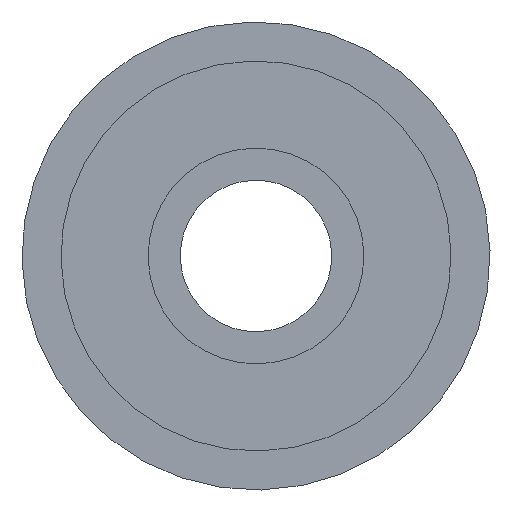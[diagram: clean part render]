
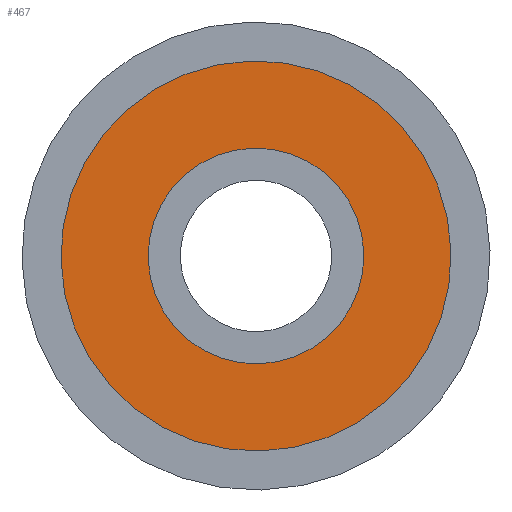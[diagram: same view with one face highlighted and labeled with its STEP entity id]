
A CAD part, left-side view. The second image highlights one B-rep face of the part: STEP entity #467.
In plain terms, the highlighted planar face has unit normal (-1, 0, 0).
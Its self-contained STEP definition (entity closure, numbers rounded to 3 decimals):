
#212=CARTESIAN_POINT('Vertex',(-24.5,-10.312,-5.633)) ;
#219=CARTESIAN_POINT('Vertex',(-24.5,10.312,5.633)) ;
#222=CARTESIAN_POINT('Axis2P3D Location',(-24.5,0.,0.)) ;
#234=CARTESIAN_POINT('Axis2P3D Location',(-24.5,0.,0.)) ;
#420=CARTESIAN_POINT('Vertex',(-24.5,18.649,10.188)) ;
#423=CARTESIAN_POINT('Axis2P3D Location',(-24.5,0.,0.)) ;
#427=CARTESIAN_POINT('Vertex',(-24.5,-18.649,-10.188)) ;
#442=CARTESIAN_POINT('Axis2P3D Location',(-24.5,0.,0.)) ;
#454=CARTESIAN_POINT('Axis2P3D Location',(-24.5,19.25,0.)) ;
#223=DIRECTION('Axis2P3D Direction',(1.,0.,0.)) ;
#235=DIRECTION('Axis2P3D Direction',(1.,0.,0.)) ;
#424=DIRECTION('Axis2P3D Direction',(1.,0.,0.)) ;
#443=DIRECTION('Axis2P3D Direction',(1.,0.,0.)) ;
#455=DIRECTION('Axis2P3D Direction',(1.,0.,0.)) ;
#456=DIRECTION('Axis2P3D XDirection',(0.,1.,0.)) ;
#224=AXIS2_PLACEMENT_3D('Circle Axis2P3D',#222,#223,$) ;
#236=AXIS2_PLACEMENT_3D('Circle Axis2P3D',#234,#235,$) ;
#425=AXIS2_PLACEMENT_3D('Circle Axis2P3D',#423,#424,$) ;
#444=AXIS2_PLACEMENT_3D('Circle Axis2P3D',#442,#443,$) ;
#457=AXIS2_PLACEMENT_3D('Plane Axis2P3D',#454,#455,#456) ;
#460=ORIENTED_EDGE('',*,*,#429,.F.) ;
#461=ORIENTED_EDGE('',*,*,#446,.F.) ;
#464=ORIENTED_EDGE('',*,*,#226,.F.) ;
#465=ORIENTED_EDGE('',*,*,#238,.F.) ;
#466=FACE_BOUND('',#463,.T.) ;
#467=ADVANCED_FACE('PartBody',(#462,#466),#458,.F.) ;
#225=CIRCLE('generated circle',#224,11.75) ;
#237=CIRCLE('generated circle',#236,11.75) ;
#426=CIRCLE('generated circle',#425,21.25) ;
#445=CIRCLE('generated circle',#444,21.25) ;
#226=EDGE_CURVE('',#220,#213,#225,.F.) ;
#238=EDGE_CURVE('',#213,#220,#237,.F.) ;
#429=EDGE_CURVE('',#421,#428,#426,.T.) ;
#446=EDGE_CURVE('',#428,#421,#445,.T.) ;
#459=EDGE_LOOP('',(#460,#461)) ;
#463=EDGE_LOOP('',(#464,#465)) ;
#462=FACE_OUTER_BOUND('',#459,.T.) ;
#458=PLANE('',#457) ;
#213=VERTEX_POINT('',#212) ;
#220=VERTEX_POINT('',#219) ;
#421=VERTEX_POINT('',#420) ;
#428=VERTEX_POINT('',#427) ;
